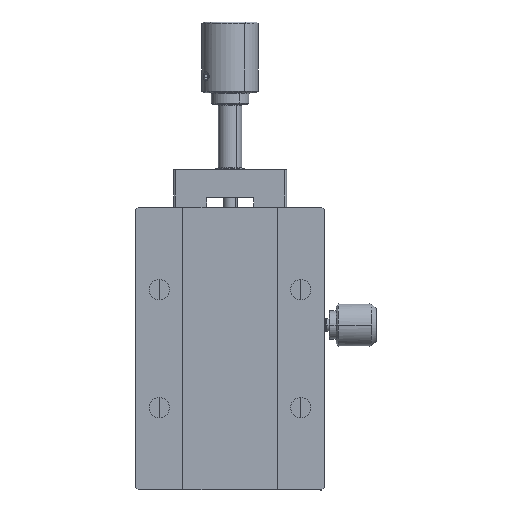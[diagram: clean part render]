
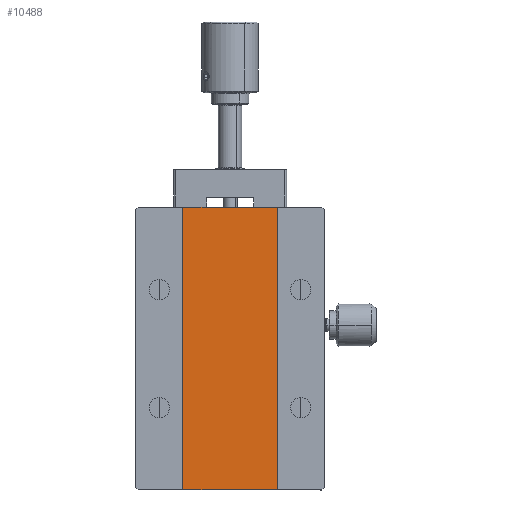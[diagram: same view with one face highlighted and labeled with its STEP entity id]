
A CAD part, front view. The second image highlights one B-rep face of the part: STEP entity #10488.
In plain terms, the highlighted planar face has unit normal (0, -1, 0).
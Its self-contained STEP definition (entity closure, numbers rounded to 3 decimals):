
#881 = CARTESIAN_POINT ( 'NONE',  ( 42.081, 25.037, 1.383 ) ) ;
#5238 = LINE ( 'NONE', #24351, #50745 ) ;
#6191 = VECTOR ( 'NONE', #43603, 1000. ) ;
#6458 = EDGE_CURVE ( 'NONE', #15163, #8178, #32402, .T. ) ;
#7662 = EDGE_CURVE ( 'NONE', #31107, #40127, #57066, .T. ) ;
#8178 = VERTEX_POINT ( 'NONE', #13758 ) ;
#10488 = ADVANCED_FACE ( 'NONE', ( #30289 ), #25914, .F. ) ;
#11705 = VECTOR ( 'NONE', #19846, 1000. ) ;
#13758 = CARTESIAN_POINT ( 'NONE',  ( 22.081, 25.037, 61.383 ) ) ;
#14543 = CARTESIAN_POINT ( 'NONE',  ( 22.081, 25.037, 61.383 ) ) ;
#15163 = VERTEX_POINT ( 'NONE', #40512 ) ;
#15359 = DIRECTION ( 'NONE',  ( 1., 0., 0. ) ) ;
#19846 = DIRECTION ( 'NONE',  ( 0., 0., -1. ) ) ;
#20649 = CARTESIAN_POINT ( 'NONE',  ( 12.081, 25.037, 61.383 ) ) ;
#20732 = ORIENTED_EDGE ( 'NONE', *, *, #7662, .T. ) ;
#24351 = CARTESIAN_POINT ( 'NONE',  ( 42.081, 25.037, 61.383 ) ) ;
#24485 = CARTESIAN_POINT ( 'NONE',  ( 22.081, 25.037, 1.383 ) ) ;
#25914 = PLANE ( 'NONE',  #47195 ) ;
#28438 = ORIENTED_EDGE ( 'NONE', *, *, #6458, .T. ) ;
#28937 = CARTESIAN_POINT ( 'NONE',  ( 22.081, 25.037, 1.383 ) ) ;
#30048 = ORIENTED_EDGE ( 'NONE', *, *, #33020, .T. ) ;
#30289 = FACE_OUTER_BOUND ( 'NONE', #36985, .T. ) ;
#31107 = VERTEX_POINT ( 'NONE', #28937 ) ;
#32281 = EDGE_CURVE ( 'NONE', #40127, #15163, #5238, .T. ) ;
#32402 = LINE ( 'NONE', #51537, #34107 ) ;
#33020 = EDGE_CURVE ( 'NONE', #8178, #31107, #53621, .T. ) ;
#34107 = VECTOR ( 'NONE', #37407, 1000. ) ;
#36985 = EDGE_LOOP ( 'NONE', ( #28438, #30048, #20732, #54945 ) ) ;
#37407 = DIRECTION ( 'NONE',  ( -1., 0., 0. ) ) ;
#38777 = DIRECTION ( 'NONE',  ( 0., 1., 0. ) ) ;
#40127 = VERTEX_POINT ( 'NONE', #881 ) ;
#40512 = CARTESIAN_POINT ( 'NONE',  ( 42.081, 25.037, 61.383 ) ) ;
#43479 = DIRECTION ( 'NONE',  ( 0., 0., 1. ) ) ;
#43603 = DIRECTION ( 'NONE',  ( 1., 0., 0. ) ) ;
#47195 = AXIS2_PLACEMENT_3D ( 'NONE', #20649, #38777, #15359 ) ;
#50745 = VECTOR ( 'NONE', #43479, 1000. ) ;
#51537 = CARTESIAN_POINT ( 'NONE',  ( 22.081, 25.037, 61.383 ) ) ;
#53621 = LINE ( 'NONE', #14543, #11705 ) ;
#54945 = ORIENTED_EDGE ( 'NONE', *, *, #32281, .T. ) ;
#57066 = LINE ( 'NONE', #24485, #6191 ) ;
